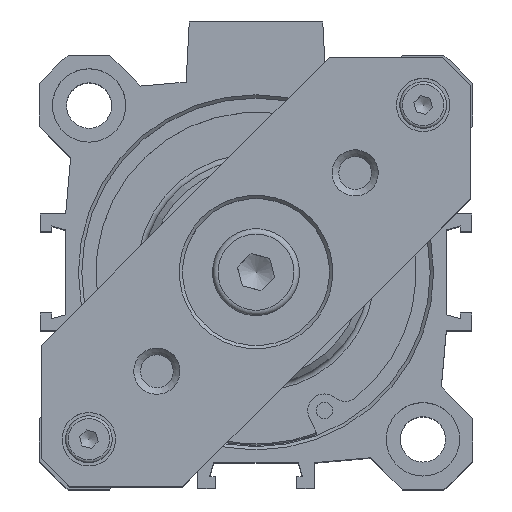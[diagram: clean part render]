
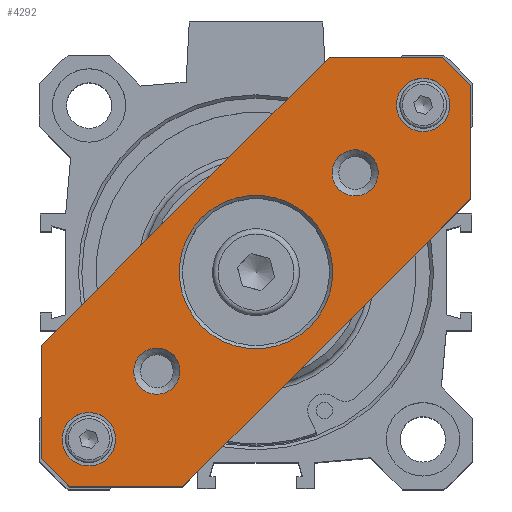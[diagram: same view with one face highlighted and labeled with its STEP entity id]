
A CAD part, top view. The second image highlights one B-rep face of the part: STEP entity #4292.
In plain terms, the highlighted planar face has unit normal (0, 0, 1).
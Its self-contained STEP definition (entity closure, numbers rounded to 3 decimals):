
#254=LINE('',#8890,#536);
#258=LINE('',#8899,#540);
#261=LINE('',#8905,#543);
#264=LINE('',#8911,#546);
#267=LINE('',#8917,#549);
#270=LINE('',#8923,#552);
#273=LINE('',#8929,#555);
#276=LINE('',#8935,#558);
#536=VECTOR('',#7505,1000.);
#540=VECTOR('',#7511,1000.);
#543=VECTOR('',#7516,1000.);
#546=VECTOR('',#7521,1000.);
#549=VECTOR('',#7526,1000.);
#552=VECTOR('',#7531,1000.);
#555=VECTOR('',#7536,1000.);
#558=VECTOR('',#7541,1000.);
#1422=ORIENTED_EDGE('',*,*,#2178,.F.);
#1423=ORIENTED_EDGE('',*,*,#2175,.F.);
#1424=ORIENTED_EDGE('',*,*,#2176,.F.);
#1425=ORIENTED_EDGE('',*,*,#2179,.T.);
#1426=ORIENTED_EDGE('',*,*,#2180,.T.);
#1427=ORIENTED_EDGE('',*,*,#2171,.F.);
#1428=ORIENTED_EDGE('',*,*,#2149,.F.);
#1429=ORIENTED_EDGE('',*,*,#2153,.F.);
#1430=ORIENTED_EDGE('',*,*,#2156,.F.);
#1431=ORIENTED_EDGE('',*,*,#2159,.F.);
#1432=ORIENTED_EDGE('',*,*,#2162,.F.);
#1433=ORIENTED_EDGE('',*,*,#2165,.F.);
#1434=ORIENTED_EDGE('',*,*,#2168,.F.);
#2149=EDGE_CURVE('',#2607,#2608,#254,.T.);
#2153=EDGE_CURVE('',#2611,#2607,#258,.T.);
#2156=EDGE_CURVE('',#2613,#2611,#261,.T.);
#2159=EDGE_CURVE('',#2615,#2613,#264,.T.);
#2162=EDGE_CURVE('',#2617,#2615,#267,.T.);
#2165=EDGE_CURVE('',#2619,#2617,#270,.T.);
#2168=EDGE_CURVE('',#2621,#2619,#273,.T.);
#2171=EDGE_CURVE('',#2608,#2621,#276,.T.);
#2175=EDGE_CURVE('',#2625,#2625,#2894,.T.);
#2176=EDGE_CURVE('',#2626,#2626,#2895,.T.);
#2178=EDGE_CURVE('',#2628,#2628,#2897,.T.);
#2179=EDGE_CURVE('',#2629,#2629,#2898,.T.);
#2180=EDGE_CURVE('',#2630,#2630,#2899,.T.);
#2607=VERTEX_POINT('',#8891);
#2608=VERTEX_POINT('',#8892);
#2611=VERTEX_POINT('',#8900);
#2613=VERTEX_POINT('',#8906);
#2615=VERTEX_POINT('',#8912);
#2617=VERTEX_POINT('',#8918);
#2619=VERTEX_POINT('',#8924);
#2621=VERTEX_POINT('',#8930);
#2625=VERTEX_POINT('',#8944);
#2626=VERTEX_POINT('',#8947);
#2628=VERTEX_POINT('',#8952);
#2629=VERTEX_POINT('',#8954);
#2630=VERTEX_POINT('',#8956);
#2894=CIRCLE('',#6561,11.5);
#2895=CIRCLE('',#6563,3.459);
#2897=CIRCLE('',#6566,3.459);
#2898=CIRCLE('',#6567,4.);
#2899=CIRCLE('',#6568,4.);
#3262=EDGE_LOOP('',(#1422));
#3263=EDGE_LOOP('',(#1423));
#3264=EDGE_LOOP('',(#1424));
#3265=EDGE_LOOP('',(#1425));
#3266=EDGE_LOOP('',(#1426));
#3267=EDGE_LOOP('',(#1427,#1428,#1429,#1430,#1431,#1432,#1433,#1434));
#3745=FACE_BOUND('',#3262,.T.);
#3746=FACE_BOUND('',#3263,.T.);
#3747=FACE_BOUND('',#3264,.T.);
#3748=FACE_BOUND('',#3265,.T.);
#3749=FACE_BOUND('',#3266,.T.);
#3750=FACE_BOUND('',#3267,.T.);
#4075=PLANE('',#6565);
#4292=ADVANCED_FACE('',(#3745,#3746,#3747,#3748,#3749,#3750),#4075,.T.);
#6561=AXIS2_PLACEMENT_3D('',#8943,#7551,#7552);
#6563=AXIS2_PLACEMENT_3D('',#8946,#7555,#7556);
#6565=AXIS2_PLACEMENT_3D('',#8950,#7559,#7560);
#6566=AXIS2_PLACEMENT_3D('',#8951,#7561,#7562);
#6567=AXIS2_PLACEMENT_3D('',#8953,#7563,#7564);
#6568=AXIS2_PLACEMENT_3D('',#8955,#7565,#7566);
#7505=DIRECTION('',(-0.707,0.707,0.));
#7511=DIRECTION('',(-1.,0.,0.));
#7516=DIRECTION('',(-0.707,-0.707,0.));
#7521=DIRECTION('',(0.,-1.,0.));
#7526=DIRECTION('',(0.707,-0.707,0.));
#7531=DIRECTION('',(1.,0.,0.));
#7536=DIRECTION('',(0.707,0.707,0.));
#7541=DIRECTION('',(0.,1.,0.));
#7551=DIRECTION('',(0.,0.,1.));
#7552=DIRECTION('',(-1.,0.,0.));
#7555=DIRECTION('',(0.,0.,1.));
#7556=DIRECTION('',(-1.,0.,0.));
#7559=DIRECTION('',(0.,0.,1.));
#7560=DIRECTION('',(1.,0.,0.));
#7561=DIRECTION('',(0.,0.,1.));
#7562=DIRECTION('',(-1.,0.,0.));
#7563=DIRECTION('',(0.,0.,-1.));
#7564=DIRECTION('',(1.,0.,0.));
#7565=DIRECTION('',(0.,0.,-1.));
#7566=DIRECTION('',(1.,0.,0.));
#8890=CARTESIAN_POINT('',(-30.5,-15.,12.));
#8891=CARTESIAN_POINT('',(-30.5,-15.,12.));
#8892=CARTESIAN_POINT('',(-42.5,-3.,12.));
#8899=CARTESIAN_POINT('',(30.5,-15.,12.));
#8900=CARTESIAN_POINT('',(30.5,-15.,12.));
#8905=CARTESIAN_POINT('',(42.5,-3.,12.));
#8906=CARTESIAN_POINT('',(42.5,-3.,12.));
#8911=CARTESIAN_POINT('',(42.5,3.,12.));
#8912=CARTESIAN_POINT('',(42.5,3.,12.));
#8917=CARTESIAN_POINT('',(30.5,15.,12.));
#8918=CARTESIAN_POINT('',(30.5,15.,12.));
#8923=CARTESIAN_POINT('',(-30.5,15.,12.));
#8924=CARTESIAN_POINT('',(-30.5,15.,12.));
#8929=CARTESIAN_POINT('',(-42.5,3.,12.));
#8930=CARTESIAN_POINT('',(-42.5,3.,12.));
#8935=CARTESIAN_POINT('',(-42.5,-3.,12.));
#8943=CARTESIAN_POINT('',(0.,0.,12.));
#8944=CARTESIAN_POINT('',(11.5,0.,12.));
#8946=CARTESIAN_POINT('',(21.,0.,12.));
#8947=CARTESIAN_POINT('',(24.459,0.,12.));
#8950=CARTESIAN_POINT('',(0.,0.,12.));
#8951=CARTESIAN_POINT('',(-21.,0.,12.));
#8952=CARTESIAN_POINT('',(-17.542,0.,12.));
#8953=CARTESIAN_POINT('',(-35.4,0.,12.));
#8954=CARTESIAN_POINT('',(-31.4,0.,12.));
#8955=CARTESIAN_POINT('',(35.4,0.,12.));
#8956=CARTESIAN_POINT('',(39.4,0.,12.));
